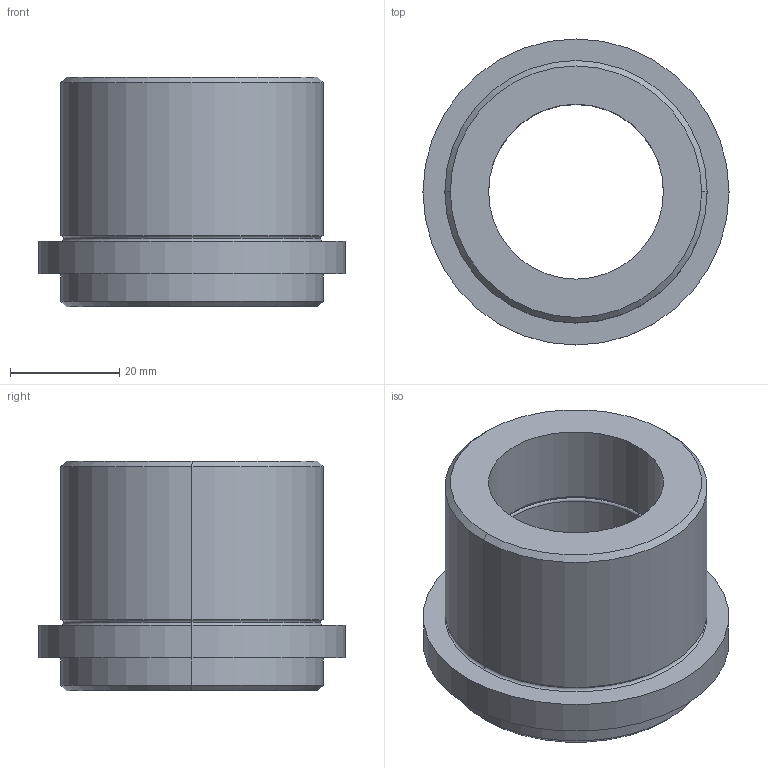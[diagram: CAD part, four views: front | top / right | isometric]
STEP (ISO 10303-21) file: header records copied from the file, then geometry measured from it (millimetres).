
FILE_DESCRIPTION (( 'STEP AP214' ), '1' );
FILE_NAME ('Casquillo SB500-32-42.STEP', '2018-11-26T13:01:02', ( '' ), ( '' ), 'SwSTEP 2.0', 'SolidWorks 2018', '' );
FILE_SCHEMA (( 'AUTOMOTIVE_DESIGN' ));
Length unit declared in the file: millimetre
Products named in the file (1): Casquillo SB500-32-42
Bounding box: 56 x 56 x 42 mm (x, y, z)
Volume: 45914.6 mm3; surface area: 14046.1 mm2
Topology: 1 solids, 1 shells, 32 faces, 64 edges, 36 vertices
Faces by surface type: torus 12, cylinder 12, cone 4, plane 4
Entity records: 874 total; most frequent: DIRECTION 178, CARTESIAN_POINT 133, ORIENTED_EDGE 128, AXIS2_PLACEMENT_3D 81, EDGE_CURVE 64, CIRCLE 48, EDGE_LOOP 36, VERTEX_POINT 36
